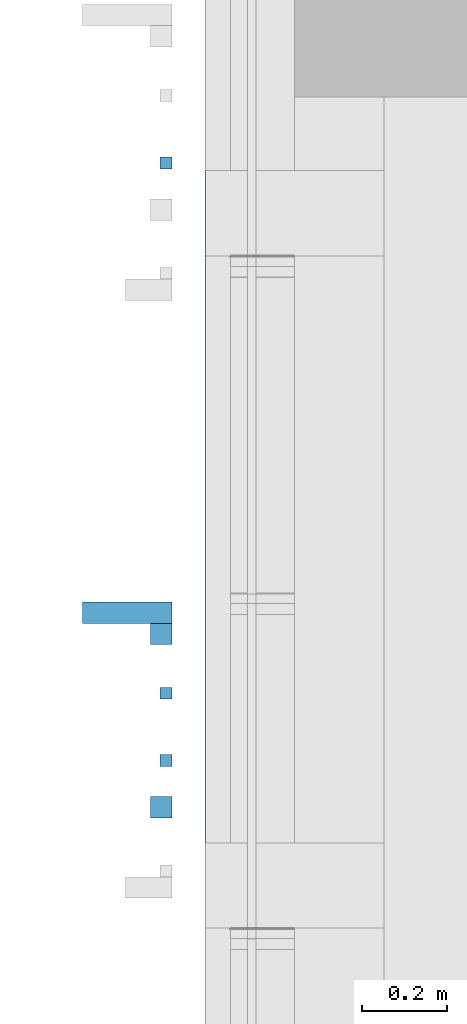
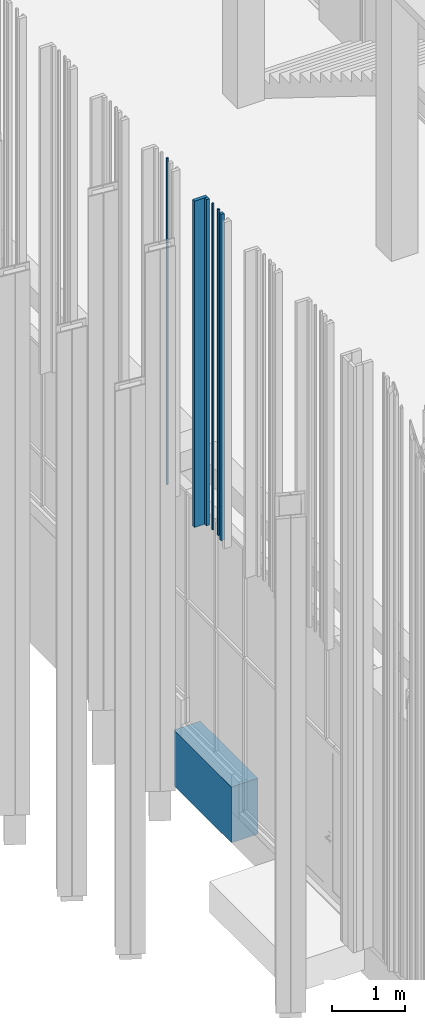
# One storey, part 107 of 390: 7 walls.
"""IFC2X3 building model written with IfcOpenShell, lengths in millimetres."""

from ifc_helpers import new_model, entity, si_unit, converted_unit, derived_unit, money_unit, direction, frame, origin_with_axes, place, context, subcontext, project, spatial, faceted_brep, material, material_list, type_object, element, save


model = new_model("IFC2X3")

# Units and contexts
model_context = context("Model", 3, precision=1e-05, world=origin_with_axes(), true_north=direction((0.0, 1.0)))
body_context = subcontext(model_context, "Body", "Model", "MODEL_VIEW")
ifc_project = project(units=[si_unit("LENGTHUNIT", "METRE", prefix="MILLI"), si_unit("AREAUNIT", "SQUARE_METRE"), si_unit("VOLUMEUNIT", "CUBIC_METRE"), converted_unit("PLANEANGLEUNIT", "DEGREE", entity("IfcPlaneAngleMeasure", 0.0174532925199), si_unit("PLANEANGLEUNIT", "RADIAN"), dimensions=[0, 0, 0, 0, 0, 0, 0]), si_unit("SOLIDANGLEUNIT", "STERADIAN"), money_unit("EUR"), converted_unit("TIMEUNIT", "Year", entity("IfcTimeMeasure", 31556926.0), si_unit("TIMEUNIT", "SECOND"), dimensions=[0, 0, 1, 0, 0, 0, 0]), si_unit("MASSUNIT", "GRAM", prefix="KILO"), si_unit("THERMODYNAMICTEMPERATUREUNIT", "DEGREE_CELSIUS"), si_unit("LUMINOUSINTENSITYUNIT", "LUMEN"), si_unit("ENERGYUNIT", "JOULE", prefix="MEGA"), derived_unit("THERMALCONDUCTANCEUNIT", [(si_unit("POWERUNIT", "WATT"), 1), (si_unit("LENGTHUNIT", "METRE"), -1), (si_unit("THERMODYNAMICTEMPERATUREUNIT", "KELVIN"), -1)]), derived_unit("SPECIFICHEATCAPACITYUNIT", [(si_unit("ENERGYUNIT", "JOULE"), 1), (si_unit("MASSUNIT", "GRAM", prefix="KILO"), -1), (si_unit("THERMODYNAMICTEMPERATUREUNIT", "KELVIN"), -1)]), derived_unit("MASSDENSITYUNIT", [(si_unit("MASSUNIT", "GRAM", prefix="KILO"), 1), (si_unit("VOLUMEUNIT", "CUBIC_METRE"), -1)])], contexts=[model_context])

# Site, building, storey
site_placement = place(None, origin_with_axes())
site = spatial("IfcSite", under=ifc_project, at=site_placement, Name="Site", CompositionType="ELEMENT")
building_placement = place(site_placement, origin_with_axes())
building = spatial("IfcBuilding", under=site, at=building_placement, Name="Building", CompositionType="ELEMENT")
storey_placement = place(building_placement, origin_with_axes())
storey = spatial("IfcBuildingStorey", under=building, at=storey_placement, Name="1 korrus", CompositionType="ELEMENT", Elevation=0.0)

# Walls
ifc_material_1 = material(Name="Membraan - Veekindel")
ifc_material_2 = material(Name="Soojustus - Plastik Kõva")
ifc_material_3 = material(Name="Raudbetoon - Konstruktsioon")
ifc_material_4 = material(Name="Krohv - Lubjakivi")
ifc_material_list = material_list([ifc_material_1, ifc_material_1, ifc_material_2, ifc_material_2, ifc_material_3, ifc_material_4])
wall_type_1 = type_object("IfcWallType", Name="VS-03", PredefinedType="NOTDEFINED")
wall_1_placement = place(storey_placement, frame((122909.999995, 50212.5685666, -620.0), z_axis=(0.0, 0.0, 1.0), x_axis=(0.0, 1.0, 0.0)))
element("IfcWall", 1, at=wall_1_placement, inside=storey, type_object=wall_type_1, material=ifc_material_list, Name="VS-03", context=body_context, shape_type="Brep", body=[
    faceted_brep([(1574.99999346, 420.000000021, 0.0), (1574.99999346, 415.000000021, 0.0), (-5.563549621e-09, 415.0, 0.0), (-5.62749846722e-09, 420.0, 0.0), (1574.99999346, 420.000000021, 930.0), (1574.99999346, 415.000000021, 930.0), (-5.563549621e-09, 415.0, 930.0), (-5.62749846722e-09, 420.0, 930.0)], [[[0, 1, 2, 3]], [[0, 4, 5, 1]], [[1, 5, 6, 2]], [[3, 2, 6, 7]], [[4, 0, 3, 7]], [[5, 4, 7, 6]]]),
    faceted_brep([(1574.99999346, 415.000000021, 0.0), (1574.99999346, 410.000000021, 0.0), (-5.49249534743e-09, 410.0, 0.0), (-5.563549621e-09, 415.0, 0.0), (1574.99999346, 415.000000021, 930.0), (1574.99999346, 410.000000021, 930.0), (-5.49249534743e-09, 410.0, 930.0), (-5.563549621e-09, 415.0, 930.0)], [[[0, 1, 2, 3]], [[0, 4, 5, 1]], [[1, 5, 6, 2]], [[3, 2, 6, 7]], [[4, 0, 3, 7]], [[5, 4, 7, 6]]]),
    faceted_brep([(1574.99999346, 410.000000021, 0.0), (1574.99999347, 360.000000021, 0.0), (-4.82458517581e-09, 360.0, 0.0), (-5.49249534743e-09, 410.0, 0.0), (1574.99999346, 410.000000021, 930.0), (1574.99999347, 360.000000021, 930.0), (-4.82458517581e-09, 360.0, 930.0), (-5.49249534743e-09, 410.0, 930.0)], [[[0, 1, 2, 3]], [[0, 4, 5, 1]], [[1, 5, 6, 2]], [[3, 2, 6, 7]], [[4, 0, 3, 7]], [[5, 4, 7, 6]]]),
    faceted_brep([(1574.99999347, 360.000000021, 0.0), (1574.99999347, 210.000000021, 0.0), (-2.81374923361e-09, 210.0, 0.0), (-4.82458517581e-09, 360.0, 0.0), (1574.99999347, 360.000000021, 930.0), (1574.99999347, 210.000000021, 930.0), (-2.81374923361e-09, 210.0, 930.0), (-4.82458517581e-09, 360.0, 930.0)], [[[0, 1, 2, 3]], [[0, 4, 5, 1]], [[1, 5, 6, 2]], [[3, 2, 6, 7]], [[4, 0, 3, 7]], [[5, 4, 7, 6]]]),
    faceted_brep([(1574.99999347, 210.000000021, 0.0), (1574.99999347, 10.0000000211, 0.0), (-1.35003119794e-10, 10.0, 0.0), (-2.81374923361e-09, 210.0, 0.0), (1574.99999347, 210.000000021, 930.0), (1574.99999347, 10.0000000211, 930.0), (-1.35003119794e-10, 10.0, 930.0), (-2.81374923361e-09, 210.0, 930.0)], [[[0, 1, 2, 3]], [[0, 4, 5, 1]], [[1, 5, 6, 2]], [[3, 2, 6, 7]], [[4, 0, 3, 7]], [[5, 4, 7, 6]]]),
    faceted_brep([(1574.99999347, 10.0000000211, 0.0), (1574.99999347, 2.11173301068e-08, 0.0), (0.0, 0.0, 0.0), (-1.35003119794e-10, 10.0, 0.0), (1574.99999347, 10.0000000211, 930.0), (1574.99999347, 2.11173301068e-08, 930.0), (0.0, 0.0, 930.0), (-1.35003119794e-10, 10.0, 930.0)], [[[0, 1, 2, 3]], [[0, 4, 5, 1]], [[1, 5, 6, 2]], [[3, 2, 6, 7]], [[4, 0, 3, 7]], [[5, 4, 7, 6]]]),
])
ifc_material_5 = material(Name="Site specified")
wall_type_2 = type_object("IfcWallType", Name="Puitfassaadi ribistik", PredefinedType="NOTDEFINED")
for number, where, z_axis, x_axis, name in (
    (2, (122398.999997, 50563.0000095, 4424.99966101), (0.0, 0.0, 1.0), (0.0, 1.0, 0.0), "Site specified"),
    (3, (122398.999997, 51805.0000095, 4424.99966101), (0.0, 0.0, 1.0), (0.0, 1.0, 0.0), "Site specified"),
):
    element("IfcWall", number, at=place(storey_placement, frame(where, z_axis=z_axis, x_axis=x_axis)), inside=storey, type_object=wall_type_2, material=ifc_material_5, Name=name, context=body_context, shape_type="Brep", body=[
        faceted_brep([(14.0, 14.0, 5440.00033899), (14.0, 14.0, 0.0), (-14.0, 14.0, 0.0), (-14.0, 14.0, 5440.00033899), (14.0, -14.0, 5440.00033899), (14.0, -14.0, 0.0), (-14.0, -14.0, 0.0), (-14.0, -14.0, 5440.00033899)], [[[0, 1, 2, 3]], [[4, 5, 1, 0]], [[2, 1, 5, 6]], [[3, 2, 6, 7]], [[4, 0, 3, 7]], [[7, 6, 5, 4]]]),
    ])
wall_2_placement = place(storey_placement, frame((122308.499997, 50752.0000095, 4424.99966101), z_axis=(0.0, 0.0, 1.0), x_axis=(0.0, 1.0, 0.0)))
element("IfcWall", 4, at=wall_2_placement, inside=storey, type_object=wall_type_2, material=ifc_material_5, Name="Site specified", context=body_context, shape_type="Brep", body=[
    faceted_brep([(25.0, 104.5, 5440.00033899), (25.0, 104.5, 0.0), (-25.0, 104.5, 0.0), (-25.0, 104.5, 5440.00033899), (25.0, -104.5, 5440.00033899), (25.0, -104.5, 0.0), (-25.0, -104.5, 0.0), (-25.0, -104.5, 5440.00033899)], [[[0, 1, 2, 3]], [[4, 5, 1, 0]], [[2, 1, 5, 6]], [[3, 2, 6, 7]], [[4, 0, 3, 7]], [[7, 6, 5, 4]]]),
])
wall_3_placement = place(storey_placement, frame((122398.999997, 50405.0000095, 4424.99966101), z_axis=(0.0, 0.0, 1.0), x_axis=(0.0, 1.0, 0.0)))
element("IfcWall", 5, at=wall_3_placement, inside=storey, type_object=wall_type_2, material=ifc_material_5, Name="Site specified", context=body_context, shape_type="Brep", body=[
    faceted_brep([(14.0, 14.0, 5440.00033899), (14.0, 14.0, 0.0), (-14.0, 14.0, 0.0), (-14.0, 14.0, 5440.00033899), (14.0, -14.0, 5440.00033899), (14.0, -14.0, 0.0), (-14.0, -14.0, 0.0), (-14.0, -14.0, 5440.00033899)], [[[0, 1, 2, 3]], [[4, 5, 1, 0]], [[2, 1, 5, 6]], [[3, 2, 6, 7]], [[4, 0, 3, 7]], [[7, 6, 5, 4]]]),
])
for number, where, z_axis, x_axis, name in (
    (6, (122387.999997, 50702.0000095, 4424.99966101), (0.0, 0.0, 1.0), (0.0, 1.0, 0.0), "Site specified"),
    (7, (122387.999997, 50296.0000095, 4424.99966101), (0.0, 0.0, 1.0), (0.0, 1.0, 0.0), "Site specified"),
):
    element("IfcWall", number, at=place(storey_placement, frame(where, z_axis=z_axis, x_axis=x_axis)), inside=storey, type_object=wall_type_2, material=ifc_material_5, Name=name, context=body_context, shape_type="Brep", body=[
        faceted_brep([(25.0, 25.0, 5440.00033899), (25.0, 25.0, 0.0), (-25.0, 25.0, 0.0), (-25.0, 25.0, 5440.00033899), (25.0, -25.0, 5440.00033899), (25.0, -25.0, 0.0), (-25.0, -25.0, 0.0), (-25.0, -25.0, 5440.00033899)], [[[0, 1, 2, 3]], [[4, 5, 1, 0]], [[2, 1, 5, 6]], [[3, 2, 6, 7]], [[4, 0, 3, 7]], [[7, 6, 5, 4]]]),
    ])

save(model, "model.ifc")
